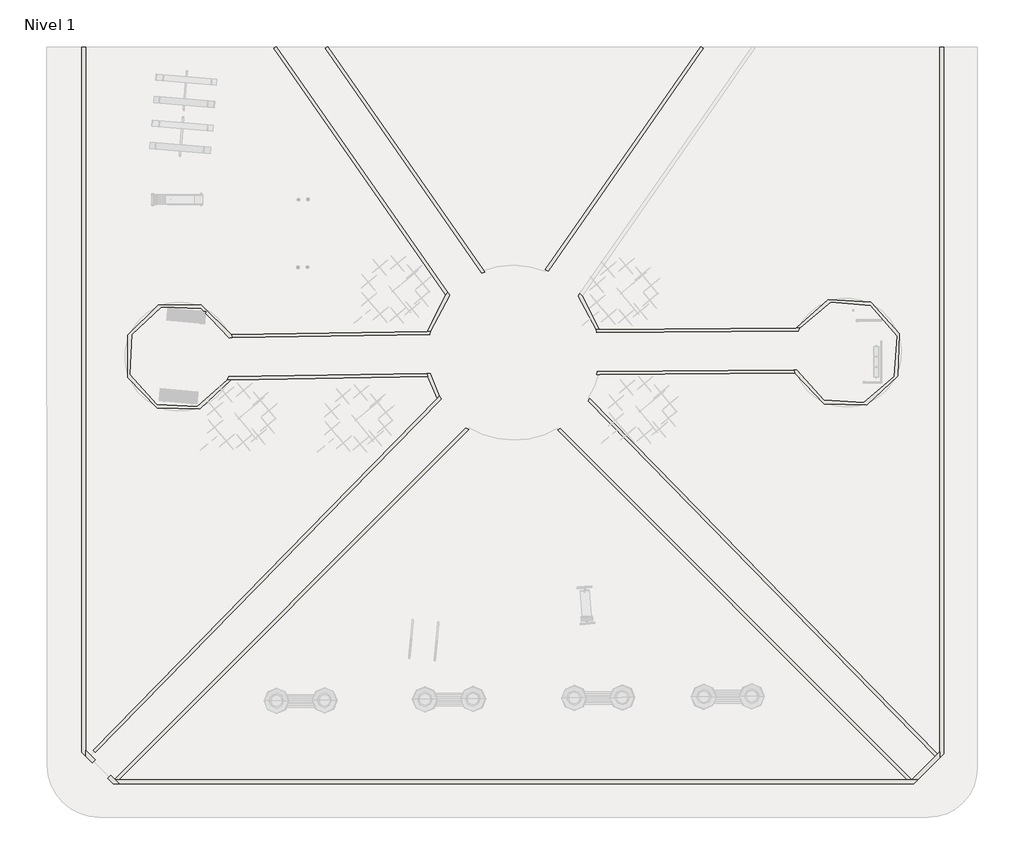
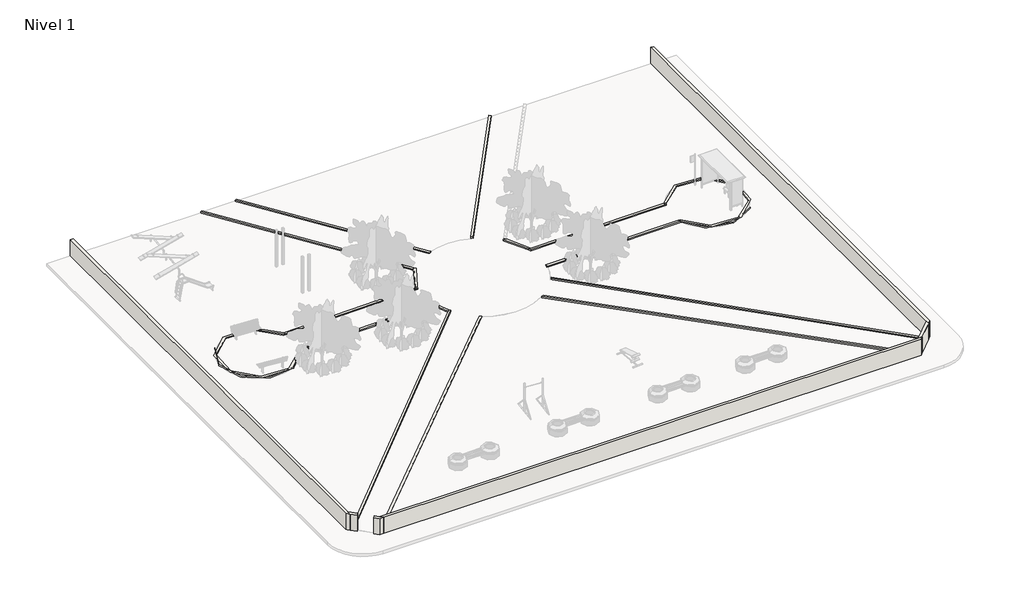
# One storey, part 1 of 2: 22 walls.
"""IFC4 building model written with IfcOpenShell, lengths in millimetres."""

from ifc_helpers import new_model, si_unit, point, frame, frame_2d, origin, origin_with_axes, place, context, project, spatial, polyline, circle_curve, trimmed, segment, composite_curve, outline, extrude, faceted_brep, element, save
from ifc_brep_helpers import plane_surface, cylinder_surface, revolved_surface, advanced_brep

model = new_model("IFC4")

# Units and contexts
model_context = context("Model", 3, world=origin())
ifc_project = project(units=[si_unit("LENGTHUNIT", "METRE", prefix="MILLI")], contexts=[model_context])

# Site, building, storey
site = spatial("IfcSite", under=ifc_project)
building = spatial("IfcBuilding", under=site)
storey = spatial("IfcBuildingStorey", under=building, Name="Nivel 1", Elevation=0.0)

# Walls
placement = place(None, origin())
element("IfcWall", 1, ObjectType="200 mm pequeño", at=placement, inside=storey, context=model_context, shape_type="Brep", body=[
    faceted_brep([(21146.042238, -4701.8617954, 0.0), (21146.042238, 28963.0342386, 0.0), (21146.042238, 28963.0342386, 1200.0), (21146.042238, -4701.8617954, 1200.0), (20946.042238, -4901.8617954, 0.0), (20946.042238, -4901.8617954, 1200.0), (20946.042238, -4619.0190829, 1200.0), (20946.042238, 28963.0342386, 1200.0), (20946.042238, 28963.0342386, 0.0), (20946.042238, -4619.0190829, 0.0)], [[[0, 1, 2, 3]], [[4, 5, 6, 7, 8, 9]], [[1, 0, 4, 9, 8]], [[2, 1, 8, 7]], [[3, 2, 7, 6, 5]], [[0, 3, 5, 4]]]),
])
element("IfcWall", 2, ObjectType="200 mm pequeño", at=placement, inside=storey, context=model_context, shape_type="Brep", body=[
    faceted_brep([(-18130.2838598, -6136.9657614, 1200.0), (-18130.2838598, -6136.9657614, 0.0), (19710.938272, -6136.9657614, 0.0), (19710.938272, -6136.9657614, 1200.0), (-18330.2838598, -5936.9657614, 0.0), (-18330.2838598, -5936.9657614, 100.0), (-18330.2838598, -5936.9657614, 1200.0), (19628.0955595, -5936.9657614, 1200.0), (19910.938272, -5936.9657614, 1200.0), (19910.938272, -5936.9657614, 0.0), (19628.0955595, -5936.9657614, 0.0), (19621.2028369, -5936.9657614, 0.0), (19409.0708025, -5936.9657614, 0.0), (-18165.6391989, -5936.9657614, 0.0)], [[[0, 1, 2, 3]], [[4, 5, 6, 7, 8, 9, 10, 11, 12, 13]], [[2, 1, 4, 13, 12, 11, 10, 9]], [[0, 3, 8, 7, 6]], [[0, 6, 5, 4, 1]], [[2, 9, 8, 3]]]),
])
element("IfcWall", 3, ObjectType="200 mm pequeño", at=placement, inside=storey, context=model_context, shape_type="Brep", body=[
    faceted_brep([(-19926.2161089, 28963.0342386, 0.0), (-19926.2161089, -4623.8762248, 0.0), (-19926.2161089, -4623.8762248, 1200.0), (-19926.2161089, 28963.0342386, 1200.0), (-19726.2161089, 28963.0342386, 0.0), (-19726.2161089, 28963.0342386, 1200.0), (-19726.2161089, -4541.0335123, 1200.0), (-19726.2161089, -4823.8762248, 1200.0), (-19726.2161089, -4823.8762248, 0.0), (-19726.2161089, -4541.0335123, 0.0)], [[[0, 1, 2, 3]], [[4, 5, 6, 7, 8, 9]], [[1, 0, 4, 9, 8]], [[3, 2, 7, 6, 5]], [[0, 3, 5, 4]], [[2, 1, 8, 7]]]),
])
element("IfcWall", 4, ObjectType="150 mm bordillo", at=placement, inside=storey, context=model_context, shape_type="AdvancedBrep", body=[
    advanced_brep(
    [(-2881.5963106, 12340.3253707, 0.0), (-2990.124239, 12229.2951442, 0.0), (-19375.9370265, -4534.3207639, 0.0), (-19375.9370265, -4534.3207639, 100.0), (-2990.124239, 12229.2951442, 100.0), (-2881.5963106, 12340.3253707, 100.0), (-2800.7679717, 12208.4258418, 0.0), (-2800.7679717, 12208.4258418, 100.0), (-19268.6691442, -4639.1711403, 100.0), (-19268.6691442, -4639.1711403, 0.0)],
    [
        (0, 1),
        (1, 2),
        (2, 3),
        (3, 4),
        (4, 5),
        (5, 0),
        (6, 7),
        (7, 8),
        (8, 9),
        (9, 6),
        (0, 6, circle_curve(frame((645.9469836, 14411.296467, 0.0), z_axis=(0.0, 0.0, 1.0), x_axis=(-0.6370839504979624, 0.7707944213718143, 0.0)), 4090.5357808)),
        (9, 2),
        (8, 3),
        (7, 5, circle_curve(frame((645.9469836, 14411.296467, 100.0), z_axis=(0.0, 0.0, -1.0), x_axis=(-0.6370839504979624, 0.7707944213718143, 0.0)), 4090.5357808)),
    ],
    [
        plane_surface(frame((-2949.3780602, 12270.9807962, 0.0), z_axis=(-0.715119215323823, 0.6990025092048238, 0.0), x_axis=(-0.6990025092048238, -0.715119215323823, 0.0))),
        plane_surface(frame((-2842.1101779, 12166.1304198, 0.0), z_axis=(0.715119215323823, -0.6990025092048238, 0.0), x_axis=(0.6990025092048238, 0.715119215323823, 0.0))),
        plane_surface(frame((-2949.3780602, 12270.9807962, 0.0), z_axis=(0.0, 0.0, -1.0), x_axis=(0.7151192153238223, -0.6990025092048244, 0.0))),
        plane_surface(frame((-19375.9370265, -4534.3207639, 0.0), z_axis=(-0.6990025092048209, -0.7151192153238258, 0.0), x_axis=(0.7151192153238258, -0.6990025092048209, 0.0))),
        plane_surface(frame((-19375.9370265, -4534.3207639, 100.0), z_axis=(0.0, 0.0, 1.0), x_axis=(0.7151192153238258, -0.6990025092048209, 0.0))),
        revolved_surface(polyline([(-1960.0677112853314, 17564.25862726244, 0.0), (-1960.0677112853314, 17564.25862726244, 100.00000000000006)]), (645.9469836, 14411.296467, 0.0), (0.0, 0.0, -1.0000000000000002)),
    ],
    [
        (0, [[1, 2, 3, 4, 5, 6]]),
        (1, [[7, 8, 9, 10]]),
        (2, [[-2, -1, 11, -10, 12]]),
        (3, [[-3, -12, -9, 13]]),
        (4, [[-5, -4, -13, -8, 14]]),
        (5, [[-6, -14, -7, -11]]),
    ],
),
])
element("IfcWall", 5, ObjectType="150 mm bordillo", at=placement, inside=storey, context=model_context, shape_type="AdvancedBrep", body=[
    advanced_brep(
    [(-3477.2357971, 13420.5858807, 100.0), (-3438.4418537, 13271.1608039, 100.0), (-2990.124239, 12229.2951442, 100.0), (-2881.5963106, 12340.3253707, 100.0), (-3323.4129434, 13423.0329675, 100.0), (-3477.2357971, 13420.5858807, 0.0), (-3323.4129434, 13423.0329675, 0.0), (-2881.5963106, 12340.3253707, 0.0), (-2990.124239, 12229.2951442, 0.0), (-3438.4418537, 13271.1608039, 0.0)],
    [
        (0, 1, circle_curve(frame((645.9469836, 14411.296467, 100.0), z_axis=(0.0, 0.0, 1.0), x_axis=(-0.6370839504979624, 0.7707944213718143, 0.0)), 4240.5357808)),
        (1, 2, circle_curve(frame((645.9469836, 14411.296467, 100.0), z_axis=(0.0, 0.0, 1.0), x_axis=(-0.6370839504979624, 0.7707944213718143, 0.0)), 4240.535521)),
        (2, 3),
        (3, 4, circle_curve(frame((645.9469836, 14411.296467, 100.0), z_axis=(0.0, 0.0, -1.0), x_axis=(-0.6370839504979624, 0.7707944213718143, 0.0)), 4090.5357808)),
        (4, 0),
        (5, 6),
        (6, 7, circle_curve(frame((645.9469836, 14411.296467, 0.0), z_axis=(0.0, 0.0, 1.0), x_axis=(-0.6370839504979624, 0.7707944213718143, 0.0)), 4090.5357808)),
        (7, 8),
        (8, 9, circle_curve(frame((645.9469836, 14411.296467, 0.0), z_axis=(0.0, 0.0, -1.0), x_axis=(-0.6370839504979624, 0.7707944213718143, 0.0)), 4240.5357808)),
        (9, 5, circle_curve(frame((645.9469836, 14411.296467, 0.0), z_axis=(0.0, 0.0, -1.0), x_axis=(-0.6370839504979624, 0.7707944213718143, 0.0)), 4240.535521)),
        (0, 5),
        (8, 2),
        (3, 7),
        (6, 4),
    ],
    [
        plane_surface(frame((-2055.6303039, 17679.8777905, 100.0), z_axis=(0.0, 0.0, 1.0000000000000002), x_axis=(-0.7707944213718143, -0.6370839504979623, 0.0))),
        plane_surface(frame((-2055.6303039, 17679.8777905, 0.0), z_axis=(0.0, 0.0, -1.0000000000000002), x_axis=(0.7707944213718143, 0.6370839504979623, 0.0))),
        cylinder_surface(frame((645.9469836, 14411.296467, 0.0), z_axis=(0.0, 0.0, 1.0000000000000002), x_axis=(-0.6370839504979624, 0.7707944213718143, 0.0)), 4240.5357808),
        revolved_surface(polyline([(-1960.0677112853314, 17564.25862726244, 0.0), (-1960.0677112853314, 17564.25862726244, 100.00000000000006)]), (645.9469836, 14411.296467, 0.0), (0.0, 0.0, -1.0000000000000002)),
        plane_surface(frame((-2949.3780602, 12270.9807962, 0.0), z_axis=(0.715119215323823, -0.6990025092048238, 0.0), x_axis=(-0.6990025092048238, -0.715119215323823, 0.0))),
        plane_surface(frame((-12873.1780365, 13271.1107816, 0.0), z_axis=(-0.01590646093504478, 0.9998734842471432, 0.0), x_axis=(-0.9998734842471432, -0.01590646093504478, 0.0))),
    ],
    [
        (0, [[1, 2, 3, 4, 5]]),
        (1, [[6, 7, 8, 9, 10]]),
        (2, [[-2, -1, 11, -10, -9, 12]]),
        (3, [[-4, 13, -7, 14]]),
        (4, [[-3, -12, -8, -13]]),
        (5, [[-5, -14, -6, -11]]),
    ],
),
])
element("IfcWall", 6, ObjectType="150 mm bordillo", at=placement, inside=storey, context=model_context, shape_type="AdvancedBrep", body=[
    advanced_brep(
    [(-12989.6100828, 13119.2395457, 0.0), (-12822.7327947, 13121.8943086, 0.0), (-3438.4485835, 13271.1839463, 0.0), (-3438.4485835, 13271.1839463, 100.0), (-12822.7327947, 13121.8943086, 100.0), (-12989.6100828, 13119.2395457, 100.0), (-12922.2326604, 13270.3303974, 0.0), (-12922.2326604, 13270.3303974, 100.0), (-3477.2357971, 13420.5858807, 100.0), (-3477.2357971, 13420.5858807, 0.0)],
    [
        (0, 1),
        (1, 2),
        (2, 3),
        (3, 4),
        (4, 5),
        (5, 0),
        (6, 7),
        (7, 8),
        (8, 9),
        (9, 6),
        (0, 6, circle_curve(frame((-15257.9321822, 14221.3431852, 0.0), z_axis=(0.0, 0.0, 1.0), x_axis=(-0.6370839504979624, 0.7707944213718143, 0.0)), 2521.8877015)),
        (9, 2, circle_curve(frame((645.9469836, 14411.296467, 0.0), z_axis=(0.0, 0.0, 1.0), x_axis=(-0.6370839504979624, 0.7707944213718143, 0.0)), 4240.5357808)),
        (3, 8, circle_curve(frame((645.9469836, 14411.296467, 100.0), z_axis=(0.0, 0.0, -1.0), x_axis=(-0.6370839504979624, 0.7707944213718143, 0.0)), 4240.5357808)),
        (7, 5, circle_curve(frame((-15257.9321822, 14221.3431852, 100.0), z_axis=(0.0, 0.0, -1.0), x_axis=(-0.6370839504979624, 0.7707944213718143, 0.0)), 2521.8877015)),
    ],
    [
        plane_surface(frame((-12870.7920673, 13121.129759, 0.0), z_axis=(0.01590646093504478, -0.9998734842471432, 0.0), x_axis=(0.9998734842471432, 0.01590646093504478, 0.0))),
        plane_surface(frame((-12873.1780365, 13271.1107816, 0.0), z_axis=(-0.01590646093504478, 0.9998734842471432, 0.0), x_axis=(-0.9998734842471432, -0.01590646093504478, 0.0))),
        plane_surface(frame((-12870.7920673, 13121.129759, 0.0), z_axis=(0.0, 0.0, -1.0), x_axis=(-0.01590646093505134, 0.9998734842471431, 0.0))),
        plane_surface(frame((-3380.1640664, 13272.111164, 100.0), z_axis=(0.0, 0.0, 1.0), x_axis=(-0.01590646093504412, 0.9998734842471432, 0.0))),
        revolved_surface(polyline([(-2055.630303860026, 17679.87779046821, 100.00000000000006), (-2055.630303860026, 17679.87779046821, 0.0)]), (645.9469836, 14411.296467, 0.0), (0.0, 0.0, 1.0000000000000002)),
        revolved_surface(polyline([(-16864.586361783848, 16165.200156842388, 0.0), (-16864.586361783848, 16165.200156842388, 100.00000000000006)]), (-15257.9321822, 14221.3431852, 0.0), (0.0, 0.0, -1.0000000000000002)),
    ],
    [
        (0, [[1, 2, 3, 4, 5, 6]]),
        (1, [[7, 8, 9, 10]]),
        (2, [[-2, -1, 11, -10, 12]]),
        (3, [[-5, -4, 13, -8, 14]]),
        (4, [[-3, -12, -9, -13]]),
        (5, [[-6, -14, -7, -11]]),
    ],
),
])
element("IfcWall", 7, ObjectType="150 mm bordillo", at=placement, inside=storey, context=model_context, shape_type="AdvancedBrep", body=[
    advanced_brep(
    [(-12742.9278452, 15123.4169483, 100.0), (-12801.5103932, 15272.5211971, 100.0), (-12822.7327947, 13121.8943086, 100.0), (-12989.6100828, 13119.2395457, 100.0), (-12901.9318179, 15120.8874378, 100.0), (-12742.9278452, 15123.4169483, 0.0), (-12901.9318179, 15120.8874378, 0.0), (-12989.6100828, 13119.2395457, 0.0), (-12822.7327947, 13121.8943086, 0.0), (-12801.5103932, 15272.5211971, 0.0)],
    [
        (0, 1, circle_curve(frame((-15257.9321822, 14221.3431852, 100.0), z_axis=(0.0, 0.0, 1.0), x_axis=(-0.6370839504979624, 0.7707944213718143, 0.0)), 2671.8877015)),
        (1, 2, circle_curve(frame((-15257.9321822, 14221.3431852, 100.0), z_axis=(0.0, 0.0, 1.0), x_axis=(-0.6370839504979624, 0.7707944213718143, 0.0)), 2671.8875759)),
        (2, 3),
        (3, 4, circle_curve(frame((-15257.9321822, 14221.3431852, 100.0), z_axis=(0.0, 0.0, -1.0), x_axis=(-0.6370839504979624, 0.7707944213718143, 0.0)), 2521.8877015)),
        (4, 0),
        (5, 6),
        (6, 7, circle_curve(frame((-15257.9321822, 14221.3431852, 0.0), z_axis=(0.0, 0.0, 1.0), x_axis=(-0.6370839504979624, 0.7707944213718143, 0.0)), 2521.8877015)),
        (7, 8),
        (8, 9, circle_curve(frame((-15257.9321822, 14221.3431852, 0.0), z_axis=(0.0, 0.0, -1.0), x_axis=(-0.6370839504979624, 0.7707944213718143, 0.0)), 2671.8877015)),
        (9, 5, circle_curve(frame((-15257.9321822, 14221.3431852, 0.0), z_axis=(0.0, 0.0, -1.0), x_axis=(-0.6370839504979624, 0.7707944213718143, 0.0)), 2671.8875759)),
        (0, 5),
        (8, 2),
        (3, 7),
        (6, 4),
    ],
    [
        plane_surface(frame((-16960.1489544, 16280.81932, 100.0), z_axis=(0.0, 0.0, 1.0), x_axis=(-0.7707944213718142, -0.6370839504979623, 0.0))),
        plane_surface(frame((-16960.1489544, 16280.81932, 0.0), z_axis=(0.0, 0.0, -1.0), x_axis=(0.7707944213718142, 0.6370839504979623, 0.0))),
        cylinder_surface(frame((-15257.9321822, 14221.3431852, 0.0), z_axis=(0.0, 0.0, 1.0000000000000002), x_axis=(-0.6370839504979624, 0.7707944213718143, 0.0)), 2671.8877015),
        revolved_surface(polyline([(-16864.586361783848, 16165.200156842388, 0.0), (-16864.586361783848, 16165.200156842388, 100.00000000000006)]), (-15257.9321822, 14221.3431852, 0.0), (0.0, 0.0, -1.0000000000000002)),
        plane_surface(frame((-12870.7920673, 13121.129759, 0.0), z_axis=(-0.01590646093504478, 0.9998734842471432, 0.0), x_axis=(0.9998734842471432, 0.01590646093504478, 0.0))),
        plane_surface(frame((-3411.9769878, 15271.8581343, 0.0), z_axis=(0.015906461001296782, -0.9998734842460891, 0.0), x_axis=(0.9998734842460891, 0.015906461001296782, 0.0))),
    ],
    [
        (0, [[1, 2, 3, 4, 5]]),
        (1, [[6, 7, 8, 9, 10]]),
        (2, [[-2, -1, 11, -10, -9, 12]]),
        (3, [[-4, 13, -7, 14]]),
        (4, [[-3, -12, -8, -13]]),
        (5, [[-5, -14, -6, -11]]),
    ],
),
])
element("IfcWall", 8, ObjectType="150 mm bordillo", at=placement, inside=storey, context=model_context, shape_type="AdvancedBrep", body=[
    advanced_brep(
    [(-3317.4059743, 15423.3815946, 0.0), (-3472.6474741, 15420.9119393, 0.0), (-12801.5029351, 15272.5040878, 0.0), (-12801.5029351, 15272.5040878, 100.0), (-3472.6474741, 15420.9119393, 100.0), (-3317.4059743, 15423.3815946, 100.0), (-3352.8398957, 15272.7989152, 0.0), (-3352.8398957, 15272.7989152, 100.0), (-12742.9278452, 15123.4169483, 100.0), (-12742.9278452, 15123.4169483, 0.0)],
    [
        (0, 1),
        (1, 2),
        (2, 3),
        (3, 4),
        (4, 5),
        (5, 0),
        (6, 7),
        (7, 8),
        (8, 9),
        (9, 6),
        (0, 6, circle_curve(frame((645.9469836, 14411.296467, 0.0), z_axis=(0.0, 0.0, 1.0), x_axis=(-0.6370839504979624, 0.7707944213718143, 0.0)), 4090.5357808)),
        (9, 2, circle_curve(frame((-15257.9321822, 14221.3431852, 0.0), z_axis=(0.0, 0.0, 1.0), x_axis=(-0.6370839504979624, 0.7707944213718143, 0.0)), 2671.8877015)),
        (3, 8, circle_curve(frame((-15257.9321822, 14221.3431852, 100.0), z_axis=(0.0, 0.0, -1.0), x_axis=(-0.6370839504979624, 0.7707944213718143, 0.0)), 2671.8877015)),
        (7, 5, circle_curve(frame((645.9469836, 14411.296467, 100.0), z_axis=(0.0, 0.0, -1.0), x_axis=(-0.6370839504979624, 0.7707944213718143, 0.0)), 4090.5357808)),
    ],
    [
        plane_surface(frame((-3414.362957, 15421.839157, 0.0), z_axis=(-0.015906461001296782, 0.9998734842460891, 0.0), x_axis=(-0.9998734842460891, -0.015906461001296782, 0.0))),
        plane_surface(frame((-3411.9769878, 15271.8581343, 0.0), z_axis=(0.015906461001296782, -0.9998734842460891, 0.0), x_axis=(0.9998734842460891, 0.015906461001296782, 0.0))),
        plane_surface(frame((-3414.362957, 15421.839157, 0.0), z_axis=(0.0, 0.0, -1.0), x_axis=(0.015906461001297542, -0.9998734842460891, 0.0))),
        plane_surface(frame((-12852.3646576, 15271.6949554, 100.0), z_axis=(0.0, 0.0, 1.0000000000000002), x_axis=(0.015906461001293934, -0.9998734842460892, 0.0))),
        revolved_surface(polyline([(-16960.14895435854, 16280.819320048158, 100.00000000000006), (-16960.14895435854, 16280.819320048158, 0.0)]), (-15257.9321822, 14221.3431852, 0.0), (0.0, 0.0, 1.0000000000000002)),
        revolved_surface(polyline([(-1960.0677112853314, 17564.25862726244, 0.0), (-1960.0677112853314, 17564.25862726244, 100.00000000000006)]), (645.9469836, 14411.296467, 0.0), (0.0, 0.0, -1.0000000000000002)),
    ],
    [
        (0, [[1, 2, 3, 4, 5, 6]]),
        (1, [[7, 8, 9, 10]]),
        (2, [[-2, -1, 11, -10, 12]]),
        (3, [[-5, -4, 13, -8, 14]]),
        (4, [[-3, -12, -9, -13]]),
        (5, [[-6, -14, -7, -11]]),
    ],
),
])
element("IfcWall", 9, ObjectType="150 mm bordillo", at=placement, inside=storey, context=model_context, shape_type="AdvancedBrep", body=[
    advanced_brep(
    [(-2477.9708421, 17278.9228594, 100.0), (-2580.2797265, 17163.3144396, 100.0), (-3472.6474741, 15420.9119393, 100.0), (-3317.4059743, 15423.3815946, 100.0), (-2390.0607894, 17152.6719934, 100.0), (-2477.9708421, 17278.9228594, 0.0), (-2390.0607894, 17152.6719934, 0.0), (-3317.4059743, 15423.3815946, 0.0), (-3472.6474741, 15420.9119393, 0.0), (-2580.2797265, 17163.3144396, 0.0)],
    [
        (0, 1, circle_curve(frame((645.9469836, 14411.296467, 100.0), z_axis=(0.0, 0.0, 1.0), x_axis=(-0.6370839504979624, 0.7707944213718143, 0.0)), 4240.5357808)),
        (1, 2, circle_curve(frame((645.9469836, 14411.296467, 100.0), z_axis=(0.0, 0.0, 1.0), x_axis=(-0.6370839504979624, 0.7707944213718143, 0.0)), 4240.5355447)),
        (2, 3),
        (3, 4, circle_curve(frame((645.9469836, 14411.296467, 100.0), z_axis=(0.0, 0.0, -1.0), x_axis=(-0.6370839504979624, 0.7707944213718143, 0.0)), 4090.5357808)),
        (4, 0),
        (5, 6),
        (6, 7, circle_curve(frame((645.9469836, 14411.296467, 0.0), z_axis=(0.0, 0.0, 1.0), x_axis=(-0.6370839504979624, 0.7707944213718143, 0.0)), 4090.5357808)),
        (7, 8),
        (8, 9, circle_curve(frame((645.9469836, 14411.296467, 0.0), z_axis=(0.0, 0.0, -1.0), x_axis=(-0.6370839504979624, 0.7707944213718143, 0.0)), 4240.5357808)),
        (9, 5, circle_curve(frame((645.9469836, 14411.296467, 0.0), z_axis=(0.0, 0.0, -1.0), x_axis=(-0.6370839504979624, 0.7707944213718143, 0.0)), 4240.5355447)),
        (0, 5),
        (8, 2),
        (3, 7),
        (6, 4),
    ],
    [
        plane_surface(frame((-2055.6303039, 17679.8777905, 100.0), z_axis=(0.0, 0.0, 1.0000000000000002), x_axis=(-0.7707944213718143, -0.6370839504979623, 0.0))),
        plane_surface(frame((-2055.6303039, 17679.8777905, 0.0), z_axis=(0.0, 0.0, -1.0000000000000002), x_axis=(0.7707944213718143, 0.6370839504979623, 0.0))),
        cylinder_surface(frame((645.9469836, 14411.296467, 0.0), z_axis=(0.0, 0.0, 1.0000000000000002), x_axis=(-0.6370839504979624, 0.7707944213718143, 0.0)), 4240.5357808),
        revolved_surface(polyline([(-1960.0677112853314, 17564.25862726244, 0.0), (-1960.0677112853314, 17564.25862726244, 100.00000000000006)]), (645.9469836, 14411.296467, 0.0), (0.0, 0.0, -1.0000000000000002)),
        plane_surface(frame((-3414.362957, 15421.839157, 0.0), z_axis=(0.015906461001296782, -0.9998734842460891, 0.0), x_axis=(-0.9998734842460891, -0.015906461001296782, 0.0))),
        plane_surface(frame((-19739.5012248, 42068.8426844, 0.0), z_axis=(0.8206510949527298, 0.5714295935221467, 0.0), x_axis=(-0.5714295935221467, 0.8206510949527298, 0.0))),
    ],
    [
        (0, [[1, 2, 3, 4, 5]]),
        (1, [[6, 7, 8, 9, 10]]),
        (2, [[-2, -1, 11, -10, -9, 12]]),
        (3, [[-4, 13, -7, 14]]),
        (4, [[-3, -12, -8, -13]]),
        (5, [[-5, -14, -6, -11]]),
    ],
),
])
element("IfcWall", 10, ObjectType="150 mm bordillo", at=placement, inside=storey, context=model_context, shape_type="SweptSolid", body=[
    extrude(outline(composite_curve([segment(polyline([(-2580.2651261, 17163.3319195), (-10766.7030139, 28920.1770191), (-10643.6053497, 29005.8914581), (-2477.9708421, 17278.9228594)]), True, "CONTINUOUS"), segment(trimmed(circle_curve(frame_2d((645.9469836, 14411.296467)), 4240.5357808), [point((-2477.9708421, 17278.9228594))], [point((-2580.2651261, 17163.3319195))], True, "CARTESIAN"), True, "CONTINUOUS")], self_intersect=False)), origin_with_axes(), (0.0, 0.0, 1.0), 100.0),
])
element("IfcWall", 11, ObjectType="150 mm bordillo", at=placement, inside=storey, context=model_context, shape_type="AdvancedBrep", body=[
    advanced_brep(
    [(-727.1444591, 18264.4903194, 0.0), (-815.8652708, 18391.9055462, 0.0), (-8206.5160515, 29005.8914581, 0.0), (-8206.5160515, 29005.8914581, 100.0), (-815.8652708, 18391.9055462, 100.0), (-727.1444591, 18264.4903194, 100.0), (-871.8562626, 18209.8167421, 0.0), (-871.8562626, 18209.8167421, 100.0), (-8329.6137157, 28920.1770191, 100.0), (-8329.6137157, 28920.1770191, 0.0)],
    [
        (0, 1),
        (1, 2),
        (2, 3),
        (3, 4),
        (4, 5),
        (5, 0),
        (6, 7),
        (7, 8),
        (8, 9),
        (9, 6),
        (0, 6, circle_curve(frame((645.9469836, 14411.296467, 0.0), z_axis=(0.0, 0.0, 1.0), x_axis=(-0.6370839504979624, 0.7707944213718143, 0.0)), 4090.5357808)),
        (9, 2),
        (8, 3),
        (7, 5, circle_curve(frame((645.9469836, 14411.296467, 100.0), z_axis=(0.0, 0.0, -1.0), x_axis=(-0.6370839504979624, 0.7707944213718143, 0.0)), 4090.5357808)),
    ],
    [
        plane_surface(frame((-782.5555587, 18344.0682412, 0.0), z_axis=(0.8206510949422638, 0.5714295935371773, 0.0), x_axis=(-0.5714295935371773, 0.8206510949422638, 0.0))),
        plane_surface(frame((-905.6532229, 18258.3538022, 0.0), z_axis=(-0.8206510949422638, -0.5714295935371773, 0.0), x_axis=(0.5714295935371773, -0.8206510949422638, 0.0))),
        plane_surface(frame((-782.5555587, 18344.0682412, 0.0), z_axis=(0.0, 0.0, -1.0), x_axis=(-0.8206510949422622, -0.5714295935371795, 0.0))),
        plane_surface(frame((-8206.5160515, 29005.8914581, 0.0), z_axis=(-0.5714295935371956, 0.8206510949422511, 0.0), x_axis=(-0.8206510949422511, -0.5714295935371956, 0.0))),
        plane_surface(frame((-8206.5160515, 29005.8914581, 100.0), z_axis=(0.0, 0.0, 1.0), x_axis=(-0.8206510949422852, -0.5714295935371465, 0.0))),
        revolved_surface(polyline([(-1960.0677112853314, 17564.25862726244, 0.0), (-1960.0677112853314, 17564.25862726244, 100.00000000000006)]), (645.9469836, 14411.296467, 0.0), (0.0, 0.0, -1.0000000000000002)),
    ],
    [
        (0, [[1, 2, 3, 4, 5, 6]]),
        (1, [[7, 8, 9, 10]]),
        (2, [[-2, -1, 11, -10, 12]]),
        (3, [[-3, -12, -9, 13]]),
        (4, [[-5, -4, -13, -8, 14]]),
        (5, [[-6, -14, -7, -11]]),
    ],
),
])
element("IfcWall", 12, ObjectType="150 mm bordillo", at=placement, inside=storey, context=model_context, shape_type="AdvancedBrep", body=[
    advanced_brep(
    [(14289.9446053, 15586.5501763, 0.0), (14121.310708, 15585.3114424, 0.0), (4739.9538851, 15516.3988143, 0.0), (4584.6969311, 15515.2583434, 0.0), (4584.6969311, 15515.2583434, 100.0), (4739.9538851, 15516.3988143, 100.0), (14121.310708, 15585.3114424, 100.0), (14289.9446053, 15586.5501763, 100.0), (14217.3805956, 15436.013096, 0.0), (14217.3805956, 15436.013096, 100.0), (4623.6224117, 15365.5402314, 100.0), (4623.6224117, 15365.5402314, 0.0)],
    [
        (0, 1),
        (1, 2),
        (2, 3),
        (3, 4),
        (4, 5),
        (5, 6),
        (6, 7),
        (7, 0),
        (8, 9),
        (9, 10),
        (10, 11),
        (11, 8),
        (0, 8, circle_curve(frame((16524.149418, 14416.8295115, 0.0), z_axis=(0.0, 0.0, 1.0), x_axis=(-0.6370839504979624, 0.7707944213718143, 0.0)), 2521.8877015)),
        (11, 3, circle_curve(frame((645.9469836, 14411.296467, 0.0), z_axis=(0.0, 0.0, 1.0), x_axis=(-0.6370839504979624, 0.7707944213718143, 0.0)), 4090.5357808)),
        (4, 10, circle_curve(frame((645.9469836, 14411.296467, 100.0), z_axis=(0.0, 0.0, -1.0), x_axis=(-0.6370839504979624, 0.7707944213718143, 0.0)), 4090.5357808)),
        (9, 7, circle_curve(frame((16524.149418, 14416.8295115, 100.0), z_axis=(0.0, 0.0, -1.0), x_axis=(-0.6370839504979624, 0.7707944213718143, 0.0)), 2521.8877015)),
    ],
    [
        plane_surface(frame((14168.3143714, 15585.6567171, 0.0), z_axis=(-0.0073455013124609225, 0.9999730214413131, 0.0), x_axis=(-0.9999730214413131, -0.0073455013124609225, 0.0))),
        plane_surface(frame((14169.4161966, 15435.6607639, 0.0), z_axis=(0.0073455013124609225, -0.9999730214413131, 0.0), x_axis=(0.9999730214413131, 0.0073455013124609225, 0.0))),
        plane_surface(frame((14168.3143714, 15585.6567171, 0.0), z_axis=(0.0, 0.0, -1.0), x_axis=(0.007345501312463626, -0.999973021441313, 0.0))),
        plane_surface(frame((4681.6635658, 15515.9706312, 100.0), z_axis=(0.0, 0.0, 1.0), x_axis=(0.007345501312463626, -0.999973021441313, 0.0))),
        revolved_surface(polyline([(14917.495238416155, 16360.686483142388, 0.0), (14917.495238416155, 16360.686483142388, 100.00000000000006)]), (16524.149418, 14416.8295115, 0.0), (0.0, 0.0, -1.0000000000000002)),
        revolved_surface(polyline([(-1960.0677112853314, 17564.25862726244, 0.0), (-1960.0677112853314, 17564.25862726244, 100.00000000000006)]), (645.9469836, 14411.296467, 0.0), (0.0, 0.0, -1.0000000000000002)),
    ],
    [
        (0, [[1, 2, 3, 4, 5, 6, 7, 8]]),
        (1, [[9, 10, 11, 12]]),
        (2, [[-3, -2, -1, 13, -12, 14]]),
        (3, [[-7, -6, -5, 15, -10, 16]]),
        (4, [[-8, -16, -9, -13]]),
        (5, [[-4, -14, -11, -15]]),
    ],
),
])
element("IfcWall", 13, ObjectType="150 mm bordillo", at=placement, inside=storey, context=model_context, shape_type="AdvancedBrep", body=[
    advanced_brep(
    [(13985.2896168, 13584.2583139, 100.0), (14039.3408587, 13434.6332064, 100.0), (14121.310708, 15585.3114424, 100.0), (14289.9446053, 15586.5501763, 100.0), (14143.2517787, 13585.4186565, 100.0), (13985.2896168, 13584.2583139, 0.0), (14143.2517787, 13585.4186565, 0.0), (14289.9446053, 15586.5501763, 0.0), (14121.310708, 15585.3114424, 0.0), (14039.3408587, 13434.6332064, 0.0)],
    [
        (0, 1, circle_curve(frame((16524.149418, 14416.8295115, 100.0), z_axis=(0.0, 0.0, 1.0), x_axis=(-0.6370839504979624, 0.7707944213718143, 0.0)), 2671.8877015)),
        (1, 2, circle_curve(frame((16524.149418, 14416.8295115, 100.0), z_axis=(0.0, 0.0, 1.0), x_axis=(-0.6370839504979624, 0.7707944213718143, 0.0)), 2671.8875646)),
        (2, 3),
        (3, 4, circle_curve(frame((16524.149418, 14416.8295115, 100.0), z_axis=(0.0, 0.0, -1.0), x_axis=(-0.6370839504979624, 0.7707944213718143, 0.0)), 2521.8877015)),
        (4, 0),
        (5, 6),
        (6, 7, circle_curve(frame((16524.149418, 14416.8295115, 0.0), z_axis=(0.0, 0.0, 1.0), x_axis=(-0.6370839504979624, 0.7707944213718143, 0.0)), 2521.8877015)),
        (7, 8),
        (8, 9, circle_curve(frame((16524.149418, 14416.8295115, 0.0), z_axis=(0.0, 0.0, -1.0), x_axis=(-0.6370839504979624, 0.7707944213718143, 0.0)), 2671.8877015)),
        (9, 5, circle_curve(frame((16524.149418, 14416.8295115, 0.0), z_axis=(0.0, 0.0, -1.0), x_axis=(-0.6370839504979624, 0.7707944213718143, 0.0)), 2671.8875646)),
        (0, 5),
        (8, 2),
        (3, 7),
        (6, 4),
    ],
    [
        plane_surface(frame((14821.9326459, 16476.3056463, 100.0), z_axis=(0.0, 0.0, 1.0), x_axis=(-0.7707944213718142, -0.6370839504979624, 0.0))),
        plane_surface(frame((14821.9326459, 16476.3056463, 0.0), z_axis=(0.0, 0.0, -1.0), x_axis=(0.7707944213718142, 0.6370839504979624, 0.0))),
        cylinder_surface(frame((16524.149418, 14416.8295115, 0.0), z_axis=(0.0, 0.0, 1.0000000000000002), x_axis=(-0.6370839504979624, 0.7707944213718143, 0.0)), 2671.8877015),
        revolved_surface(polyline([(14917.495238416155, 16360.686483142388, 0.0), (14917.495238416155, 16360.686483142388, 100.00000000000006)]), (16524.149418, 14416.8295115, 0.0), (0.0, 0.0, -1.0000000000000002)),
        plane_surface(frame((14168.3143714, 15585.6567171, 0.0), z_axis=(0.0073455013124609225, -0.9999730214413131, 0.0), x_axis=(-0.9999730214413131, -0.0073455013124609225, 0.0))),
        plane_surface(frame((4696.3545688, 13516.0245898, 0.0), z_axis=(-0.007345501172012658, 0.9999730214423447, 0.0), x_axis=(-0.9999730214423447, -0.007345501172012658, 0.0))),
    ],
    [
        (0, [[1, 2, 3, 4, 5]]),
        (1, [[6, 7, 8, 9, 10]]),
        (2, [[-2, -1, 11, -10, -9, 12]]),
        (3, [[-4, 13, -7, 14]]),
        (4, [[-3, -12, -8, -13]]),
        (5, [[-5, -14, -6, -11]]),
    ],
),
])
element("IfcWall", 14, ObjectType="150 mm bordillo", at=placement, inside=storey, context=model_context, shape_type="AdvancedBrep", body=[
    advanced_brep(
    [(4600.4897594, 13365.3163488, 0.0), (4755.7467134, 13366.4568197, 0.0), (14039.3335763, 13434.6512577, 0.0), (14039.3335763, 13434.6512577, 100.0), (4755.7467134, 13366.4568197, 100.0), (4600.4897594, 13365.3163488, 100.0), (4637.2115896, 13515.5901433, 0.0), (4637.2115896, 13515.5901433, 100.0), (13985.2896168, 13584.2583139, 100.0), (13985.2896168, 13584.2583139, 0.0)],
    [
        (0, 1),
        (1, 2),
        (2, 3),
        (3, 4),
        (4, 5),
        (5, 0),
        (6, 7),
        (7, 8),
        (8, 9),
        (9, 6),
        (0, 6, circle_curve(frame((645.9469836, 14411.296467, 0.0), z_axis=(0.0, 0.0, 1.0), x_axis=(-0.6370839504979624, 0.7707944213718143, 0.0)), 4090.5357808)),
        (9, 2, circle_curve(frame((16524.149418, 14416.8295115, 0.0), z_axis=(0.0, 0.0, 1.0), x_axis=(-0.6370839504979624, 0.7707944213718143, 0.0)), 2671.8877015)),
        (3, 8, circle_curve(frame((16524.149418, 14416.8295115, 100.0), z_axis=(0.0, 0.0, -1.0), x_axis=(-0.6370839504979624, 0.7707944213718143, 0.0)), 2671.8877015)),
        (7, 5, circle_curve(frame((645.9469836, 14411.296467, 100.0), z_axis=(0.0, 0.0, -1.0), x_axis=(-0.6370839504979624, 0.7707944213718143, 0.0)), 4090.5357808)),
    ],
    [
        plane_surface(frame((4697.456394, 13366.0286366, 0.0), z_axis=(0.007345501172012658, -0.9999730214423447, 0.0), x_axis=(0.9999730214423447, 0.007345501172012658, 0.0))),
        plane_surface(frame((4696.3545688, 13516.0245898, 0.0), z_axis=(-0.007345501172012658, 0.9999730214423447, 0.0), x_axis=(-0.9999730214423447, -0.007345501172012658, 0.0))),
        plane_surface(frame((4697.456394, 13366.0286366, 0.0), z_axis=(0.0, 0.0, -1.0000000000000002), x_axis=(-0.007345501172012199, 0.9999730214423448, 0.0))),
        plane_surface(frame((14091.2784925, 13435.0328295, 100.0), z_axis=(0.0, 0.0, 1.0000000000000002), x_axis=(-0.007345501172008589, 0.9999730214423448, 0.0))),
        revolved_surface(polyline([(14821.93264584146, 16476.30564634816, 100.00000000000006), (14821.93264584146, 16476.30564634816, 0.0)]), (16524.149418, 14416.8295115, 0.0), (0.0, 0.0, 1.0000000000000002)),
        revolved_surface(polyline([(-1960.0677112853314, 17564.25862726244, 0.0), (-1960.0677112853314, 17564.25862726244, 100.00000000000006)]), (645.9469836, 14411.296467, 0.0), (0.0, 0.0, -1.0000000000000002)),
    ],
    [
        (0, [[1, 2, 3, 4, 5, 6]]),
        (1, [[7, 8, 9, 10]]),
        (2, [[-2, -1, 11, -10, 12]]),
        (3, [[-5, -4, 13, -8, 14]]),
        (4, [[-3, -12, -9, -13]]),
        (5, [[-6, -14, -7, -11]]),
    ],
),
])
element("IfcWall", 15, ObjectType="200 mm pequeño", at=placement, inside=storey, context=model_context, shape_type="SweptSolid", body=[
    extrude(outline(polyline([(-19417.1727258, -5132.9196078), (-19726.2161089, -4823.8762248), (-19726.2161089, -4541.0335123), (-19275.7513696, -4991.4982516), (-19417.1727258, -5132.9196078)])), origin_with_axes(), (0.0, 0.0, 1.0), 1200.0),
])
element("IfcWall", 16, ObjectType="200 mm pequeño", at=placement, inside=storey, context=model_context, shape_type="Brep", body=[
    faceted_brep([(19910.938272, -5936.9657614, 1200.0), (19910.938272, -5936.9657614, 0.0), (20946.042238, -4901.8617954, 0.0), (20946.042238, -4901.8617954, 1200.0), (19628.0955595, -5936.9657614, 0.0), (19628.0955595, -5936.9657614, 1200.0), (20946.042238, -4619.0190829, 1200.0), (20946.042238, -4619.0190829, 0.0), (20848.1993416, -4716.8619793, 0.0), (20742.1264987, -4822.9348222, 0.0)], [[[0, 1, 2, 3]], [[4, 5, 6, 7, 8, 9]], [[2, 1, 4, 9, 8, 7]], [[0, 3, 6, 5]], [[3, 2, 7, 6]], [[0, 5, 4, 1]]]),
])
element("IfcWall", 17, ObjectType="200 mm pequeño", at=placement, inside=storey, context=model_context, shape_type="Brep", body=[
    faceted_brep([(-18685.3702403, -5864.7220934, 0.0), (-18413.1265723, -6136.9657614, 0.0), (-18413.1265723, -6136.9657614, 1200.0), (-18685.3702403, -5864.7220934, 1200.0), (-18543.9488841, -5723.3007371, 0.0), (-18543.9488841, -5723.3007371, 1200.0), (-18330.2838598, -5936.9657614, 1200.0), (-18130.2838598, -6136.9657614, 1200.0), (-18130.2838598, -6136.9657614, 0.0), (-18330.2838598, -5936.9657614, 0.0), (-18354.0275465, -5913.2220747, 0.0)], [[[0, 1, 2, 3]], [[4, 5, 6, 7, 8, 9, 10]], [[1, 0, 4, 10, 9, 8]], [[3, 2, 7, 6, 5]], [[0, 3, 5, 4]], [[1, 8, 7, 2]]]),
])
element("IfcWall", 18, ObjectType="150 mm bordillo", at=placement, inside=storey, context=model_context, shape_type="SweptSolid", body=[
    extrude(outline(composite_curve([segment(polyline([(-1484.1160245, 10744.557413), (-18165.6391989, -5936.9657614), (-18330.2838598, -5936.9657614), (-18354.0275465, -5913.2220747), (-1616.2412419, 10824.5642299)]), True, "CONTINUOUS"), segment(trimmed(circle_curve(frame_2d((645.9469836, 14411.296467)), 4240.5357808), [point((-1616.2412419, 10824.5642299))], [point((-1484.1160245, 10744.557413))], True, "CARTESIAN"), True, "CONTINUOUS")], self_intersect=False)), origin_with_axes(), (0.0, 0.0, 1.0), 100.0),
])
element("IfcWall", 19, ObjectType="150 mm bordillo", at=placement, inside=storey, context=model_context, shape_type="SweptSolid", body=[
    extrude(outline(composite_curve([segment(polyline([(2878.3109097, 10805.9261658), (19621.2028369, -5936.9657614), (19409.0708025, -5936.9657614), (2745.2467091, 10726.858332)]), True, "CONTINUOUS"), segment(trimmed(circle_curve(frame_2d((645.9469836, 14411.296467)), 4240.5357808), [point((2745.2467091, 10726.858332))], [point((2878.3109097, 10805.9261658))], True, "CARTESIAN"), True, "CONTINUOUS")], self_intersect=False)), origin_with_axes(), (0.0, 0.0, 1.0), 100.0),
])
element("IfcWall", 20, ObjectType="150 mm bordillo", at=placement, inside=storey, context=model_context, shape_type="SweptSolid", body=[
    extrude(outline(composite_curve([segment(polyline([(20742.1264987, -4822.9348222), (4200.2883602, 12098.5489481)]), True, "CONTINUOUS"), segment(trimmed(circle_curve(frame_2d((645.9469836, 14411.296467)), 4240.5357808), [point((4200.2883602, 12098.5489481))], [point((4282.1031059, 12229.4366269))], True, "CARTESIAN"), True, "CONTINUOUS"), segment(polyline([(4282.1031059, 12229.4366269), (20848.1993416, -4716.8619793), (20742.1264987, -4822.9348222)]), True, "CONTINUOUS")], self_intersect=False)), origin_with_axes(), (0.0, 0.0, 1.0), 100.0),
])
element("IfcWall", 21, ObjectType="150 mm bordillo", at=placement, inside=storey, context=model_context, shape_type="SweptSolid", body=[
    extrude(outline(composite_curve([segment(polyline([(9696.2739948, 28920.1769933), (2309.5726414, 18311.8724987)]), True, "CONTINUOUS"), segment(trimmed(circle_curve(frame_2d((645.9469836, 14411.296467)), 4240.5357808), [point((2309.5726414, 18311.8724987))], [point((2167.0159765, 18369.6411749))], True, "CARTESIAN"), True, "CONTINUOUS"), segment(polyline([(2167.0159765, 18369.6411749), (9573.1763666, 29005.891484), (9696.2739948, 28920.1769933)]), True, "CONTINUOUS")], self_intersect=False)), origin_with_axes(), (0.0, 0.0, 1.0), 100.0),
])
element("IfcWall", 22, ObjectType="150 mm bordillo", at=placement, inside=storey, context=model_context, shape_type="AdvancedBrep", body=[
    advanced_brep(
    [(4739.9538851, 15516.3988143, 100.0), (3913.0547643, 17114.6551161, 100.0), (3812.1032902, 17232.2179388, 100.0), (3723.8789376, 17105.5158085, 100.0), (4584.6969311, 15515.2583434, 100.0), (4739.9538851, 15516.3988143, 0.0), (4584.6969311, 15515.2583434, 0.0), (3723.8789376, 17105.5158085, 0.0), (3812.1032902, 17232.2179388, 0.0), (3913.0547643, 17114.6551161, 0.0)],
    [
        (0, 1, circle_curve(frame((645.9469836, 14411.296467, 100.0), z_axis=(0.0, 0.0, 1.0), x_axis=(-0.6370839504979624, 0.7707944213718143, 0.0)), 4240.5357808)),
        (1, 2, circle_curve(frame((645.9469836, 14411.296467, 100.0), z_axis=(0.0, 0.0, 1.0), x_axis=(-0.6370839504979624, 0.7707944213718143, 0.0)), 4240.5354893)),
        (2, 3),
        (3, 4, circle_curve(frame((645.9469836, 14411.296467, 100.0), z_axis=(0.0, 0.0, -1.0), x_axis=(-0.6370839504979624, 0.7707944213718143, 0.0)), 4090.5357808)),
        (4, 0),
        (5, 6),
        (6, 7, circle_curve(frame((645.9469836, 14411.296467, 0.0), z_axis=(0.0, 0.0, 1.0), x_axis=(-0.6370839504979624, 0.7707944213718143, 0.0)), 4090.5357808)),
        (7, 8),
        (8, 9, circle_curve(frame((645.9469836, 14411.296467, 0.0), z_axis=(0.0, 0.0, -1.0), x_axis=(-0.6370839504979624, 0.7707944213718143, 0.0)), 4240.5357808)),
        (9, 5, circle_curve(frame((645.9469836, 14411.296467, 0.0), z_axis=(0.0, 0.0, -1.0), x_axis=(-0.6370839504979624, 0.7707944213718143, 0.0)), 4240.5354893)),
        (0, 5),
        (8, 2),
        (3, 7),
        (6, 4),
    ],
    [
        plane_surface(frame((-2055.6303039, 17679.8777905, 100.0), z_axis=(0.0, 0.0, 1.0000000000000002), x_axis=(-0.7707944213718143, -0.6370839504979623, 0.0))),
        plane_surface(frame((-2055.6303039, 17679.8777905, 0.0), z_axis=(0.0, 0.0, -1.0000000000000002), x_axis=(0.7707944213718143, 0.6370839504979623, 0.0))),
        cylinder_surface(frame((645.9469836, 14411.296467, 0.0), z_axis=(0.0, 0.0, 1.0000000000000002), x_axis=(-0.6370839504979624, 0.7707944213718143, 0.0)), 4240.5357808),
        revolved_surface(polyline([(-1960.0677112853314, 17564.25862726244, 0.0), (-1960.0677112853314, 17564.25862726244, 100.00000000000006)]), (645.9469836, 14411.296467, 0.0), (0.0, 0.0, -1.0000000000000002)),
        plane_surface(frame((14168.3143714, 15585.6567171, 0.0), z_axis=(0.0073455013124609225, -0.9999730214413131, 0.0), x_axis=(-0.9999730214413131, -0.0073455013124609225, 0.0))),
        plane_surface(frame((12010.2663761, 29005.891484, 0.0), z_axis=(-0.8206508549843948, 0.5714299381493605, 0.0), x_axis=(-0.5714299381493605, -0.8206508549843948, 0.0))),
    ],
    [
        (0, [[1, 2, 3, 4, 5]]),
        (1, [[6, 7, 8, 9, 10]]),
        (2, [[-2, -1, 11, -10, -9, 12]]),
        (3, [[-4, 13, -7, 14]]),
        (4, [[-5, -14, -6, -11]]),
        (5, [[-3, -12, -8, -13]]),
    ],
),
])

save(model, "model.ifc")
